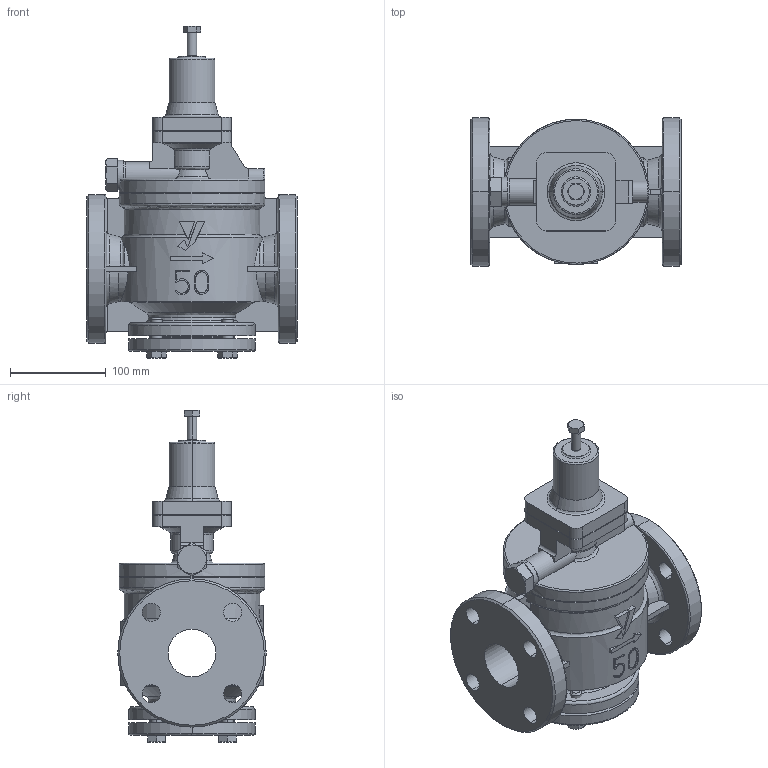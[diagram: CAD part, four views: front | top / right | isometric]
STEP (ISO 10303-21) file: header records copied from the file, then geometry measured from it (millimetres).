
FILE_DESCRIPTION( (''), '2;1');
FILE_NAME ('PC1015.12936.GP-1000(50A)JIS10K3D_29793.stp','2024-08-05T09:42:32',(''),(''),'spGate 19.8.4 (****-****-****-****)','','');
FILE_SCHEMA (('AUTOMOTIVE_DESIGN'));
Length unit declared in the file: millimetre
Products named in the file (5): Assembly; GP-1000 50A_1; CP_''_JIS B 1180 呼び径六角ボルト''_17166; CP_''_JIS B 1180 呼び径六角ボ''_(1)_17166; CP_''_JIS B 1180 呼び径六角ボ''_(2)_17166
Assembly tree (7 placements, depth 2):
  Assembly
    GP-1000 50A_1
    CP_''_JIS B 1180 呼び径六角ボルト''_17166  x4
    CP_''_JIS B 1180 呼び径六角ボ''_(1)_17166
    CP_''_JIS B 1180 呼び径六角ボ''_(2)_17166
Bounding box: 220 x 155 x 347 mm (x, y, z)
Volume: 3702332.9 mm3; surface area: 334703.7 mm2
Topology: 7 solids, 7 shells, 437 faces, 1087 edges, 690 vertices
Faces by surface type: plane 171, bspline 143, cylinder 121, sphere 2
Entity records: 21399 total; most frequent: CARTESIAN_POINT 5819, ORIENTED_EDGE 1874, DIRECTION 1484, COLOUR_RGB 1306, PRESENTATION_STYLE_ASSIGNMENT 1306, STYLED_ITEM 1306, EDGE_CURVE 937, DRAUGHTING_PRE_DEFINED_CURVE_FONT 937
